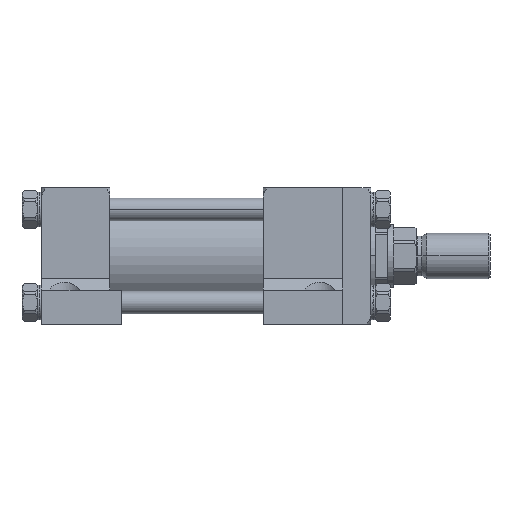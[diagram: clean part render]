
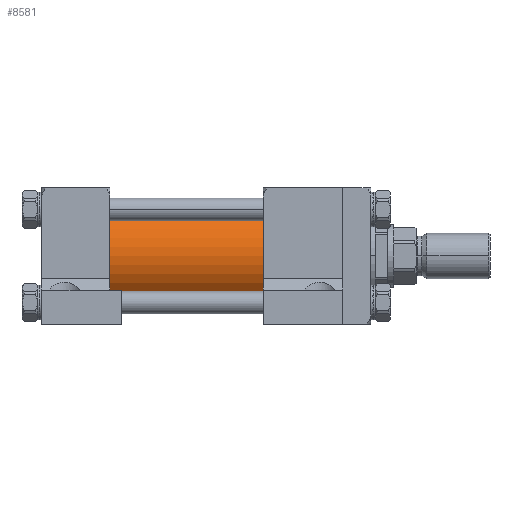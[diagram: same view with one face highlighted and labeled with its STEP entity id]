
A CAD part, front view. The second image highlights one B-rep face of the part: STEP entity #8581.
In plain terms, the highlighted cylindrical face has radius 30.163 mm (diameter 60.325 mm), a partial arc.
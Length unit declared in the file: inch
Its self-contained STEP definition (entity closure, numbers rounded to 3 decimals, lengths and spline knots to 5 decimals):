
#3827 = CYLINDRICAL_SURFACE ( 'NONE', #46162, 1.1875 ) ;
#4939 = DIRECTION ( 'NONE',  ( 1., 0., 0. ) ) ;
#5980 = ORIENTED_EDGE ( 'NONE', *, *, #34187, .T. ) ;
#8581 = ADVANCED_FACE ( 'NONE', ( #55751 ), #3827, .T. ) ;
#14527 = EDGE_CURVE ( 'NONE', #40087, #24725, #22895, .T. ) ;
#15213 = ORIENTED_EDGE ( 'NONE', *, *, #59233, .F. ) ;
#17006 = DIRECTION ( 'NONE',  ( 1., 0., 0. ) ) ;
#17949 = CARTESIAN_POINT ( 'NONE',  ( -7., 0., -1.1875 ) ) ;
#19917 = CIRCLE ( 'NONE', #34714, 1.1875 ) ;
#20645 = CARTESIAN_POINT ( 'NONE',  ( -7., 0., 1.1875 ) ) ;
#20909 = CARTESIAN_POINT ( 'NONE',  ( -3.125, 0., 1.1875 ) ) ;
#21389 = ORIENTED_EDGE ( 'NONE', *, *, #40382, .F. ) ;
#22690 = CARTESIAN_POINT ( 'NONE',  ( -7., 0., 0. ) ) ;
#22895 = LINE ( 'NONE', #17949, #44965 ) ;
#22991 = DIRECTION ( 'NONE',  ( 1., 0., 0. ) ) ;
#23270 = EDGE_LOOP ( 'NONE', ( #15213, #5980, #30250, #21389 ) ) ;
#24725 = VERTEX_POINT ( 'NONE', #57812 ) ;
#25363 = CARTESIAN_POINT ( 'NONE',  ( -7., 0., 0. ) ) ;
#29995 = DIRECTION ( 'NONE',  ( 0., 1., 0. ) ) ;
#30059 = CARTESIAN_POINT ( 'NONE',  ( -7., 0., 1.1875 ) ) ;
#30250 = ORIENTED_EDGE ( 'NONE', *, *, #14527, .T. ) ;
#32855 = VECTOR ( 'NONE', #35455, 39.37008 ) ;
#34187 = EDGE_CURVE ( 'NONE', #58787, #40087, #51142, .T. ) ;
#34714 = AXIS2_PLACEMENT_3D ( 'NONE', #59524, #46261, #45622 ) ;
#35455 = DIRECTION ( 'NONE',  ( 1., 0., 0. ) ) ;
#35481 = CARTESIAN_POINT ( 'NONE',  ( -7., 0., -1.1875 ) ) ;
#40087 = VERTEX_POINT ( 'NONE', #35481 ) ;
#40341 = VERTEX_POINT ( 'NONE', #20909 ) ;
#40382 = EDGE_CURVE ( 'NONE', #40341, #24725, #19917, .T. ) ;
#44134 = LINE ( 'NONE', #20645, #32855 ) ;
#44965 = VECTOR ( 'NONE', #4939, 39.37008 ) ;
#45231 = AXIS2_PLACEMENT_3D ( 'NONE', #25363, #17006, #29995 ) ;
#45622 = DIRECTION ( 'NONE',  ( 0., 1., 0. ) ) ;
#46162 = AXIS2_PLACEMENT_3D ( 'NONE', #22690, #22991, #47425 ) ;
#46261 = DIRECTION ( 'NONE',  ( 1., 0., 0. ) ) ;
#47425 = DIRECTION ( 'NONE',  ( 0., 0., -1. ) ) ;
#51142 = CIRCLE ( 'NONE', #45231, 1.1875 ) ;
#55751 = FACE_OUTER_BOUND ( 'NONE', #23270, .T. ) ;
#57812 = CARTESIAN_POINT ( 'NONE',  ( -3.125, 0., -1.1875 ) ) ;
#58787 = VERTEX_POINT ( 'NONE', #30059 ) ;
#59233 = EDGE_CURVE ( 'NONE', #58787, #40341, #44134, .T. ) ;
#59524 = CARTESIAN_POINT ( 'NONE',  ( -3.125, 0., 0. ) ) ;
